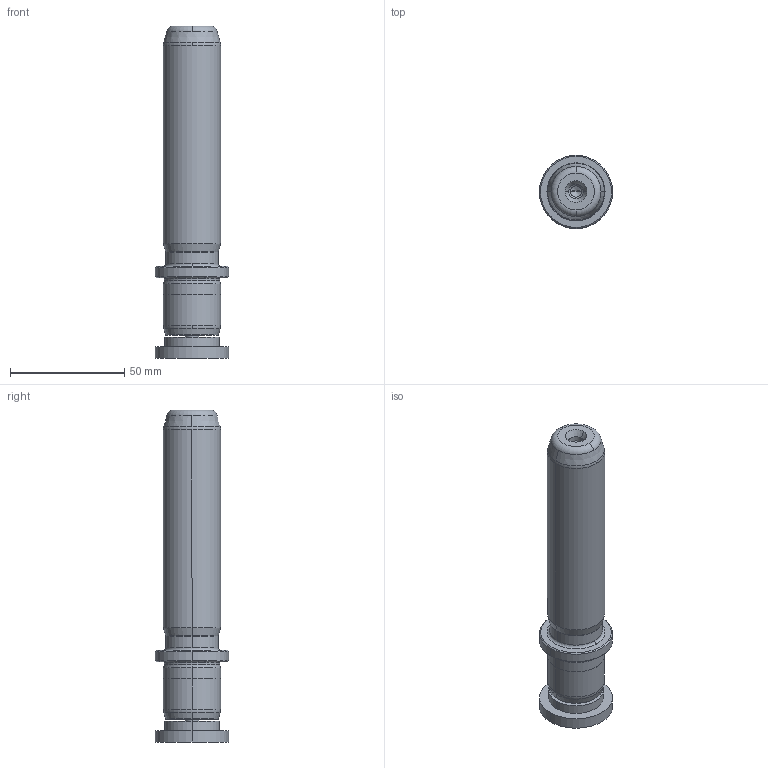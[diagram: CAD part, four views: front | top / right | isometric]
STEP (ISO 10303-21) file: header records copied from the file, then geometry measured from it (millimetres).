
FILE_DESCRIPTION((''),'2;1');
FILE_NAME('P22_025_110.stp','2009-02-02T15:35:40',(''),(''),'Mechanical Desktop 2009','Mechanical Desktop 2009',', , ');
FILE_SCHEMA(('CONFIG_CONTROL_DESIGN'));
Length unit declared in the file: millimetre
Products named in the file (2): Product; blmdl1
Assembly tree (1 placements, depth 2):
  Product
    blmdl1
Bounding box: 32 x 32 x 145 mm (x, y, z)
Volume: 71159.6 mm3; surface area: 15915.4 mm2
Topology: 3 solids, 3 shells, 99 faces, 237 edges, 149 vertices
Faces by surface type: cylinder 32, cone 28, plane 19, torus 10, bspline 10
Entity records: 3419 total; most frequent: CARTESIAN_POINT 923, DIRECTION 570, ORIENTED_EDGE 466, AXIS2_PLACEMENT_3D 246, EDGE_CURVE 233, CIRCLE 155, VERTEX_POINT 149, EDGE_LOOP 110
